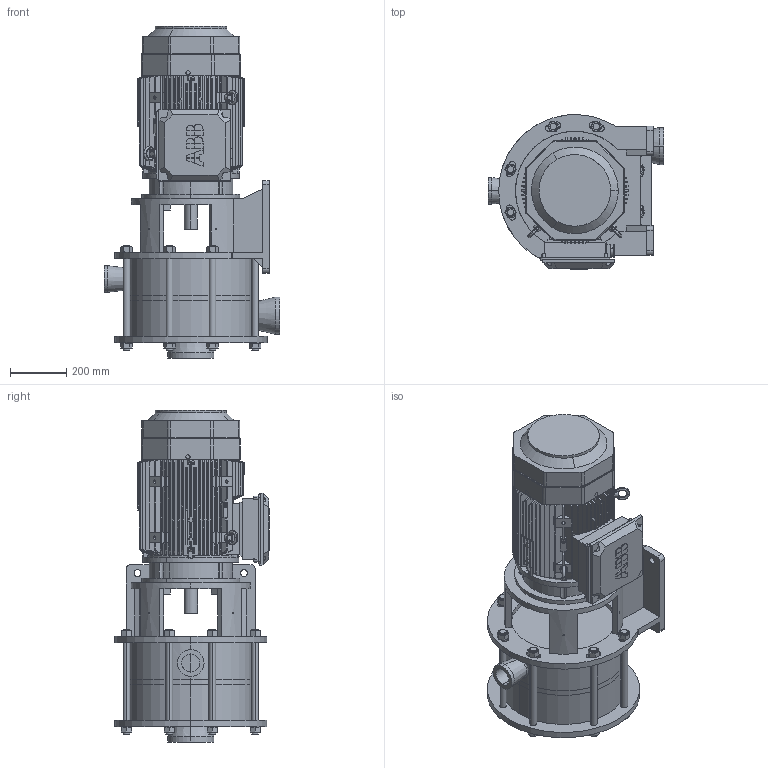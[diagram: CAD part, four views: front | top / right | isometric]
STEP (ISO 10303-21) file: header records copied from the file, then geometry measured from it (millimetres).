
FILE_DESCRIPTION((''),'2;1');
FILE_NAME('MJ100 Plastic--180M frame.stp','2010-08-04T14:29:27',(''),(''),'AutoCAD STEP 2000i','AutoCAD 2000i',', , ');
FILE_SCHEMA(('CONFIG_CONTROL_DESIGN'));
Length unit declared in the file: millimetre
Products named in the file (6): MJ100 PLASTIC--180M FRAME A; Motor; M3BP180ML; M3BP160MLB4 (long); AnyA; Any
Assembly tree (3 placements, depth 2):
  MJ100 PLASTIC--180M FRAME A
    Motor
    M3BP180ML
    M3BP160MLB4 (long)
  AnyA
  Any
Bounding box: 626 x 552.72 x 1185.25 mm (x, y, z)
Volume: 118070481.3 mm3; surface area: 5831680.7 mm2
Topology: 20 solids, 132 shells, 2436 faces, 6562 edges, 4237 vertices
Faces by surface type: plane 933, bspline 540, torus 448, cylinder 435, cone 80
Entity records: 82912 total; most frequent: CARTESIAN_POINT 26853, ORIENTED_EDGE 13040, DIRECTION 10195, EDGE_CURVE 6520, VERTEX_POINT 4237, AXIS2_PLACEMENT_3D 3992, EDGE_LOOP 2629, FACE_OUTER_BOUND 2436
